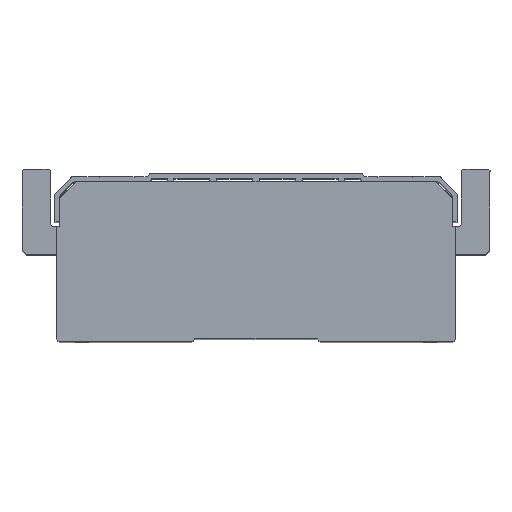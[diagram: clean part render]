
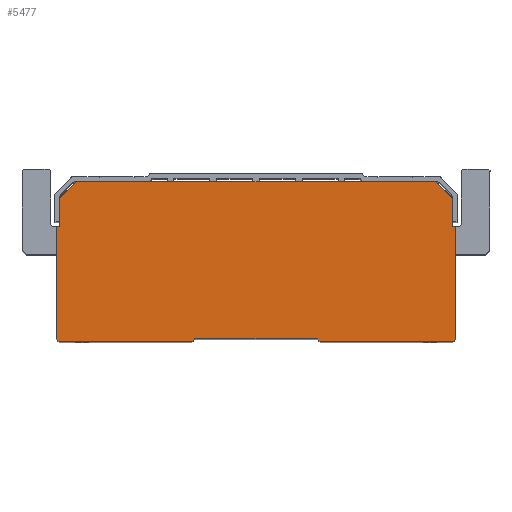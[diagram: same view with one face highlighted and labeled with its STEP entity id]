
A CAD part, top view. The second image highlights one B-rep face of the part: STEP entity #5477.
In plain terms, the highlighted planar face has unit normal (0, 0, 1).
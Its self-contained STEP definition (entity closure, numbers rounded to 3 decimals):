
#2406 = VERTEX_POINT ( 'NONE', #8847 ) ;
#5284 = VERTEX_POINT ( 'NONE', #14047 ) ;
#5286 = EDGE_CURVE ( 'NONE', #5284, #5298, #14046, .T. ) ;
#5290 = EDGE_CURVE ( 'NONE', #5298, #5291, #14036, .T. ) ;
#5291 = VERTEX_POINT ( 'NONE', #14032 ) ;
#5298 = VERTEX_POINT ( 'NONE', #14084 ) ;
#5330 = EDGE_CURVE ( 'NONE', #5344, #5385, #14090, .T. ) ;
#5334 = EDGE_CURVE ( 'NONE', #5335, #5291, #13578, .T. ) ;
#5335 = VERTEX_POINT ( 'NONE', #14148 ) ;
#5344 = VERTEX_POINT ( 'NONE', #14132 ) ;
#5368 = EDGE_CURVE ( 'NONE', #5384, #5369, #14157, .T. ) ;
#5369 = VERTEX_POINT ( 'NONE', #14153 ) ;
#5384 = VERTEX_POINT ( 'NONE', #14195 ) ;
#5385 = VERTEX_POINT ( 'NONE', #14194 ) ;
#5394 = EDGE_CURVE ( 'NONE', #5385, #5395, #14244, .T. ) ;
#5395 = VERTEX_POINT ( 'NONE', #14240 ) ;
#5400 = EDGE_CURVE ( 'NONE', #5335, #5344, #14234, .T. ) ;
#5420 = EDGE_CURVE ( 'NONE', #5369, #5421, #14267, .T. ) ;
#5421 = VERTEX_POINT ( 'NONE', #14263 ) ;
#5442 = EDGE_CURVE ( 'NONE', #5395, #5384, #14292, .T. ) ;
#5448 = ORIENTED_EDGE ( 'NONE', *, *, #5330, .F. ) ;
#5449 = ORIENTED_EDGE ( 'NONE', *, *, #5400, .F. ) ;
#5450 = ORIENTED_EDGE ( 'NONE', *, *, #5286, .F. ) ;
#5451 = ORIENTED_EDGE ( 'NONE', *, *, #5452, .T. ) ;
#5452 = EDGE_CURVE ( 'NONE', #5284, #5453, #14340, .T. ) ;
#5453 = VERTEX_POINT ( 'NONE', #14336 ) ;
#5454 = ORIENTED_EDGE ( 'NONE', *, *, #5455, .T. ) ;
#5455 = EDGE_CURVE ( 'NONE', #5453, #5456, #14335, .T. ) ;
#5456 = VERTEX_POINT ( 'NONE', #14331 ) ;
#5457 = ORIENTED_EDGE ( 'NONE', *, *, #5458, .T. ) ;
#5458 = EDGE_CURVE ( 'NONE', #5456, #5459, #14330, .T. ) ;
#5459 = VERTEX_POINT ( 'NONE', #14326 ) ;
#5460 = ORIENTED_EDGE ( 'NONE', *, *, #5461, .T. ) ;
#5461 = EDGE_CURVE ( 'NONE', #5459, #5462, #14325, .T. ) ;
#5462 = VERTEX_POINT ( 'NONE', #14321 ) ;
#5463 = ORIENTED_EDGE ( 'NONE', *, *, #5464, .T. ) ;
#5464 = EDGE_CURVE ( 'NONE', #5462, #2406, #14320, .T. ) ;
#5477 = ADVANCED_FACE ( 'NONE', ( #14360 ), #14359, .T. ) ;
#5478 = EDGE_LOOP ( 'NONE', ( #5450, #5451, #5454, #5457, #5460, #5463, #5526, #5529, #5531, #5532, #5533, #5534, #5448, #5449, #5513, #5514 ) ) ;
#5513 = ORIENTED_EDGE ( 'NONE', *, *, #5334, .T. ) ;
#5514 = ORIENTED_EDGE ( 'NONE', *, *, #5290, .F. ) ;
#5526 = ORIENTED_EDGE ( 'NONE', *, *, #5527, .T. ) ;
#5527 = EDGE_CURVE ( 'NONE', #2406, #5528, #14421, .T. ) ;
#5528 = VERTEX_POINT ( 'NONE', #14417 ) ;
#5529 = ORIENTED_EDGE ( 'NONE', *, *, #5530, .T. ) ;
#5530 = EDGE_CURVE ( 'NONE', #5528, #5421, #14416, .T. ) ;
#5531 = ORIENTED_EDGE ( 'NONE', *, *, #5420, .F. ) ;
#5532 = ORIENTED_EDGE ( 'NONE', *, *, #5368, .F. ) ;
#5533 = ORIENTED_EDGE ( 'NONE', *, *, #5442, .F. ) ;
#5534 = ORIENTED_EDGE ( 'NONE', *, *, #5394, .F. ) ;
#8847 = CARTESIAN_POINT ( 'NONE',  ( -137.5, 98., 0. ) ) ;
#13578 = LINE ( 'NONE', #13837, #14150 ) ;
#13837 = CARTESIAN_POINT ( 'NONE',  ( 0., -2., 0. ) ) ;
#14032 = CARTESIAN_POINT ( 'NONE',  ( 138., -2., 0. ) ) ;
#14033 = DIRECTION ( 'NONE',  ( -0.707, -0.707, 0. ) ) ;
#14034 = VECTOR ( 'NONE', #14033, 1000. ) ;
#14035 = CARTESIAN_POINT ( 'NONE',  ( -27.777, -167.777, 0. ) ) ;
#14036 = LINE ( 'NONE', #14035, #14034 ) ;
#14043 = DIRECTION ( 'NONE',  ( 0., -1., 0. ) ) ;
#14044 = VECTOR ( 'NONE', #14043, 1000. ) ;
#14045 = CARTESIAN_POINT ( 'NONE',  ( 140., -195.554, 0. ) ) ;
#14046 = LINE ( 'NONE', #14045, #14044 ) ;
#14047 = CARTESIAN_POINT ( 'NONE',  ( 140., 79., 0. ) ) ;
#14084 = CARTESIAN_POINT ( 'NONE',  ( 140., 0., 0. ) ) ;
#14087 = DIRECTION ( 'NONE',  ( -1., 0., 0. ) ) ;
#14088 = VECTOR ( 'NONE', #14087, 1000. ) ;
#14089 = CARTESIAN_POINT ( 'NONE',  ( 0., 0., 0. ) ) ;
#14090 = LINE ( 'NONE', #14089, #14088 ) ;
#14132 = CARTESIAN_POINT ( 'NONE',  ( 43., 0., 0. ) ) ;
#14148 = CARTESIAN_POINT ( 'NONE',  ( 45., -2., 0. ) ) ;
#14149 = DIRECTION ( 'NONE',  ( 1., 0., 0. ) ) ;
#14150 = VECTOR ( 'NONE', #14149, 1000. ) ;
#14153 = CARTESIAN_POINT ( 'NONE',  ( -140., 0., 0. ) ) ;
#14154 = DIRECTION ( 'NONE',  ( -0.707, 0.707, 0. ) ) ;
#14155 = VECTOR ( 'NONE', #14154, 1000. ) ;
#14156 = CARTESIAN_POINT ( 'NONE',  ( 27.777, -167.777, 0. ) ) ;
#14157 = LINE ( 'NONE', #14156, #14155 ) ;
#14194 = CARTESIAN_POINT ( 'NONE',  ( -43., 0., 0. ) ) ;
#14195 = CARTESIAN_POINT ( 'NONE',  ( -138., -2., 0. ) ) ;
#14231 = DIRECTION ( 'NONE',  ( -0.707, 0.707, 0. ) ) ;
#14232 = VECTOR ( 'NONE', #14231, 1000. ) ;
#14233 = CARTESIAN_POINT ( 'NONE',  ( 119.277, -76.277, 0. ) ) ;
#14234 = LINE ( 'NONE', #14233, #14232 ) ;
#14240 = CARTESIAN_POINT ( 'NONE',  ( -45., -2., 0. ) ) ;
#14241 = DIRECTION ( 'NONE',  ( -0.707, -0.707, 0. ) ) ;
#14242 = VECTOR ( 'NONE', #14241, 1000. ) ;
#14243 = CARTESIAN_POINT ( 'NONE',  ( -119.277, -76.277, 0. ) ) ;
#14244 = LINE ( 'NONE', #14243, #14242 ) ;
#14263 = CARTESIAN_POINT ( 'NONE',  ( -140., 79., 0. ) ) ;
#14264 = DIRECTION ( 'NONE',  ( 0., 1., 0. ) ) ;
#14265 = VECTOR ( 'NONE', #14264, 1000. ) ;
#14266 = CARTESIAN_POINT ( 'NONE',  ( -140., -195.554, 0. ) ) ;
#14267 = LINE ( 'NONE', #14266, #14265 ) ;
#14289 = DIRECTION ( 'NONE',  ( -1., 0., 0. ) ) ;
#14290 = VECTOR ( 'NONE', #14289, 1000. ) ;
#14291 = CARTESIAN_POINT ( 'NONE',  ( 0., -2., 0. ) ) ;
#14292 = LINE ( 'NONE', #14291, #14290 ) ;
#14317 = DIRECTION ( 'NONE',  ( -0.707, -0.707, 0. ) ) ;
#14318 = VECTOR ( 'NONE', #14317, 1000. ) ;
#14319 = CARTESIAN_POINT ( 'NONE',  ( -137.5, 98., 0. ) ) ;
#14320 = LINE ( 'NONE', #14319, #14318 ) ;
#14321 = CARTESIAN_POINT ( 'NONE',  ( -125.5, 110., 0. ) ) ;
#14322 = DIRECTION ( 'NONE',  ( -1., 0., 0. ) ) ;
#14323 = VECTOR ( 'NONE', #14322, 1000. ) ;
#14324 = CARTESIAN_POINT ( 'NONE',  ( 125.5, 110., 0. ) ) ;
#14325 = LINE ( 'NONE', #14324, #14323 ) ;
#14326 = CARTESIAN_POINT ( 'NONE',  ( 125.5, 110., 0. ) ) ;
#14327 = DIRECTION ( 'NONE',  ( -0.707, 0.707, 0. ) ) ;
#14328 = VECTOR ( 'NONE', #14327, 1000. ) ;
#14329 = CARTESIAN_POINT ( 'NONE',  ( 137.5, 98., 0. ) ) ;
#14330 = LINE ( 'NONE', #14329, #14328 ) ;
#14331 = CARTESIAN_POINT ( 'NONE',  ( 137.5, 98., 0. ) ) ;
#14332 = DIRECTION ( 'NONE',  ( 0., 1., 0. ) ) ;
#14333 = VECTOR ( 'NONE', #14332, 1000. ) ;
#14334 = CARTESIAN_POINT ( 'NONE',  ( 137.5, 98., 0. ) ) ;
#14335 = LINE ( 'NONE', #14334, #14333 ) ;
#14336 = CARTESIAN_POINT ( 'NONE',  ( 137.5, 79., 0. ) ) ;
#14337 = DIRECTION ( 'NONE',  ( -1., 0., 0. ) ) ;
#14338 = VECTOR ( 'NONE', #14337, 1000. ) ;
#14339 = CARTESIAN_POINT ( 'NONE',  ( 137.5, 79., 0. ) ) ;
#14340 = LINE ( 'NONE', #14339, #14338 ) ;
#14355 = DIRECTION ( 'NONE',  ( 1., 0., 0. ) ) ;
#14356 = DIRECTION ( 'NONE',  ( 0., 0., 1. ) ) ;
#14357 = CARTESIAN_POINT ( 'NONE',  ( 0., -195.554, 0. ) ) ;
#14358 = AXIS2_PLACEMENT_3D ( 'NONE', #14357, #14356, #14355 ) ;
#14359 = PLANE ( 'NONE',  #14358 ) ;
#14360 = FACE_OUTER_BOUND ( 'NONE', #5478, .T. ) ;
#14413 = DIRECTION ( 'NONE',  ( -1., 0., 0. ) ) ;
#14414 = VECTOR ( 'NONE', #14413, 1000. ) ;
#14415 = CARTESIAN_POINT ( 'NONE',  ( -137.5, 79., 0. ) ) ;
#14416 = LINE ( 'NONE', #14415, #14414 ) ;
#14417 = CARTESIAN_POINT ( 'NONE',  ( -137.5, 79., 0. ) ) ;
#14418 = DIRECTION ( 'NONE',  ( 0., -1., 0. ) ) ;
#14419 = VECTOR ( 'NONE', #14418, 1000. ) ;
#14420 = CARTESIAN_POINT ( 'NONE',  ( -137.5, 98., 0. ) ) ;
#14421 = LINE ( 'NONE', #14420, #14419 ) ;
